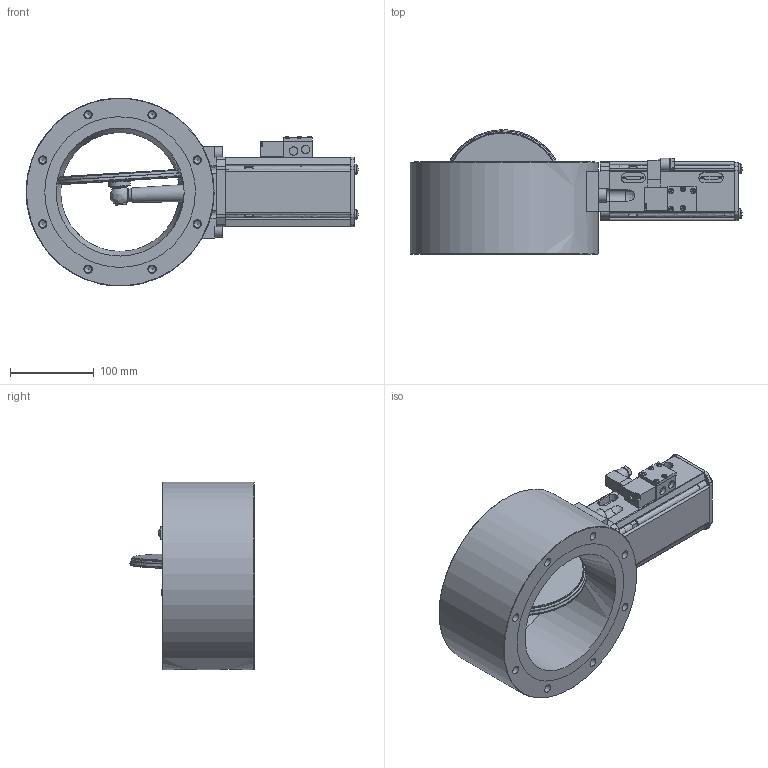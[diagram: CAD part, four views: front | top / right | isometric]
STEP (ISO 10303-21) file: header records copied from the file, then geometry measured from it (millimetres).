
FILE_DESCRIPTION((''),'2;1');
FILE_NAME('O:\MT\MT\Systeme\Cad\Datenexporte\www_vat_ch\251555.stp','2004-06-18T10:57:35',('User'),('SDRC'),'I-DEAS Master Series 9','UNIX','Yes');
FILE_SCHEMA(('CONFIG_CONTROL_DESIGN'));
Length unit declared in the file: millimetre
Assembly tree (41 placements, depth 0):
Bounding box: 396.97 x 148.51 x 224.6 mm (x, y, z)
Volume: 3048337.4 mm3; surface area: 443370.8 mm2
Topology: 47 solids, 47 shells, 1100 faces, 2571 edges, 1678 vertices
Faces by surface type: bspline 1100
Entity records: 29048 total; most frequent: CARTESIAN_POINT 14197, ORIENTED_EDGE 3584, EDGE_CURVE 1792, VERTEX_POINT 1185, EDGE_LOOP 993, FACE_OUTER_BOUND 780, ADVANCED_FACE 780, QUASI_UNIFORM_CURVE 752
